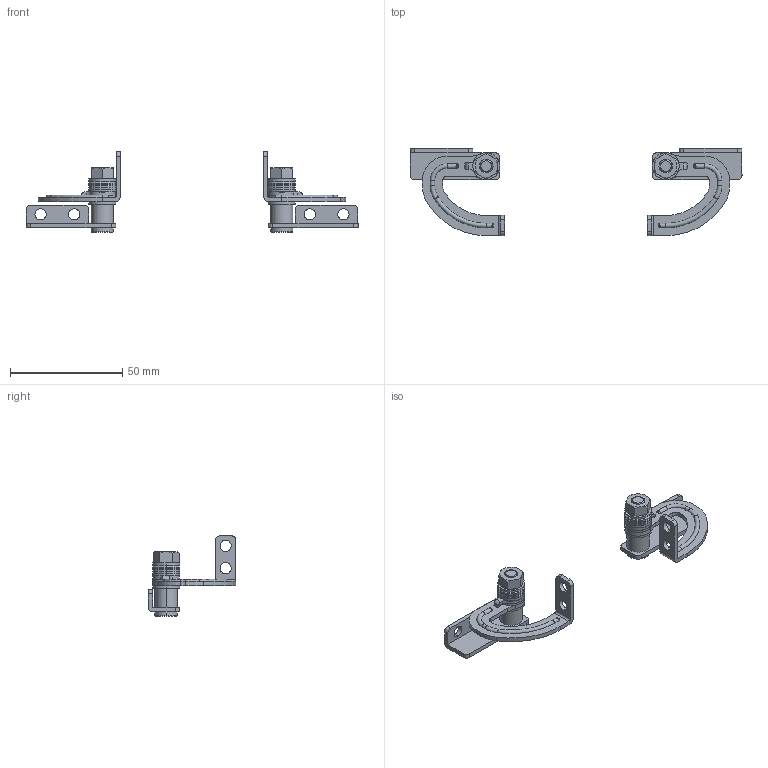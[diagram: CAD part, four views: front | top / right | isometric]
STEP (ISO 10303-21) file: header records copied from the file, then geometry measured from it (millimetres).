
FILE_DESCRIPTION (( 'STEP AP203' ), '1' );
FILE_NAME ('XG11-079.STEP', '2023-12-05T02:37:28', ( '' ), ( '' ), 'SwSTEP 2.0', 'SolidWorks 2020', '' );
FILE_SCHEMA (( 'CONFIG_CONTROL_DESIGN' ));
Length unit declared in the file: millimetre
Products named in the file (19): 噩砃HFK04-15-L_007; 噩砃HFK04-15-L_005; HFK04-15-L_001; HFK04-15-L_008; HFK04-15-L_002; 噩砃HFK04-15-L_002; HFK04-15-L_006; 噩砃HFK04-15-L_001; 噩砃HFK04-15-L_003; HFK04-15-L_003; 噩砃HFK04-15-L_008; HFK04-15-L_004; HFK04-15-L_009; 噩砃HFK04-15-L_009; 噩砃HFK04-15-L_006; XG11-079; 噩砃HFK04-15-L_004; HFK04-15-L_007; HFK04-15-L_005
Assembly tree (26 placements, depth 2):
  XG11-079
    HFK04-15-L_009
    HFK04-15-L_005  x3
    HFK04-15-L_008  x3
    HFK04-15-L_007
    HFK04-15-L_006
    HFK04-15-L_002
    HFK04-15-L_004
    HFK04-15-L_003
    HFK04-15-L_001
    噩砃HFK04-15-L_004
    噩砃HFK04-15-L_005  x3
    噩砃HFK04-15-L_007
    噩砃HFK04-15-L_006
    噩砃HFK04-15-L_001
    噩砃HFK04-15-L_003
    噩砃HFK04-15-L_008  x3
    噩砃HFK04-15-L_009
    噩砃HFK04-15-L_002
Bounding box: 148 x 39 x 35.9 mm (x, y, z)
Volume: 10606.7 mm3; surface area: 14991.4 mm2
Topology: 26 solids, 26 shells, 888 faces, 2028 edges, 1328 vertices
Faces by surface type: cylinder 464, plane 332, cone 40, torus 36, bspline 16
Entity records: 19299 total; most frequent: CARTESIAN_POINT 4307, DIRECTION 2790, ORIENTED_EDGE 2552, EDGE_CURVE 1276, AXIS2_PLACEMENT_3D 1101, VERTEX_POINT 840, EDGE_LOOP 628, VECTOR 588
